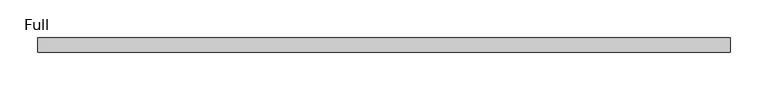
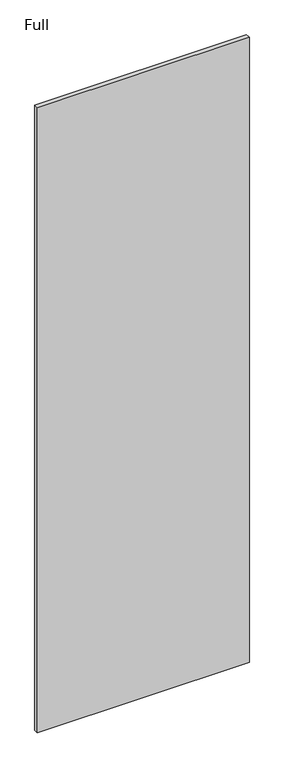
"""IFC4 building model written with IfcOpenShell, lengths in millimetres: proxy geometry, Panel-Fascia-Teknion-Altos-Standard : Full."""

from ifc_helpers import new_model, si_unit, frame, origin, place, context, project, spatial, polyline, outline, extrude, source, transform, mapped, element, save


def full_1a342aed(model_context):
    return source(origin(), model_context, "Body", "SweptSolid", [
        extrude(outline(polyline([(455.6125, 9.525), (455.6125, -9.525), (-455.6125, -9.525), (-455.6125, 9.525), (455.6125, 9.525)])), frame((0.0, 0.0, 3.175), z_axis=(0.0, 0.0, 1.0), x_axis=(1.0, 0.0, 0.0)), (0.0, 0.0, 1.0), 2840.736),
    ])


if __name__ == "__main__":
    model = new_model("IFC4")
    model_context = context("Model", 3, world=origin())
    ifc_project = project(units=[si_unit("LENGTHUNIT", "METRE", prefix="MILLI")], contexts=[model_context])
    site = spatial("IfcSite", under=ifc_project)
    building = spatial("IfcBuilding", under=site)
    placement = place(None, origin())
    full_shape = full_1a342aed(model_context)
    element("IfcBuildingElementProxy", 1, Name="Panel-Fascia-Teknion-Altos-Standard : Full", ObjectType="Panel-Fascia-Teknion-Altos-Standard : Full", at=placement, inside=building, context=model_context, shape_type="MappedRepresentation", body=[
        mapped(full_shape, transform((0.0, 0.0, 0.0), x_axis=(1.0, 0.0, 0.0), y_axis=(0.0, 1.0, 0.0), z_axis=(0.0, 0.0, 1.0))),
    ])
    save(model, "model.ifc")
